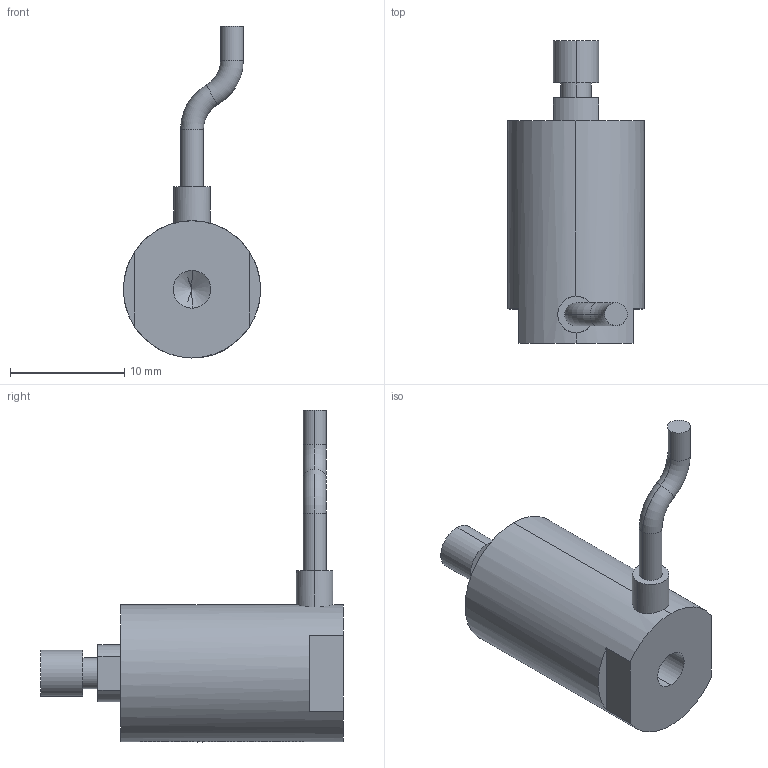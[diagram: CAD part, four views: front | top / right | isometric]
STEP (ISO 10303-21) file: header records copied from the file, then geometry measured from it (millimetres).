
FILE_DESCRIPTION (( 'STEP AP203' ), '1' );
FILE_NAME ('俋蹟恇宒7VS12.STEP', '2020-08-19T05:59:35', ( 'User' ), ( 'china' ), 'SwSTEP 2.0', 'SolidWorks 2016', '' );
FILE_SCHEMA (( 'CONFIG_CONTROL_DESIGN' ));
Length unit declared in the file: millimetre
Products named in the file (1): 俋蹟恇宒7VS12
Bounding box: 12 x 26.5 x 29.08 mm (x, y, z)
Volume: 2285.4 mm3; surface area: 1256.9 mm2
Topology: 1 solids, 1 shells, 911 faces, 2447 edges, 1627 vertices
Faces by surface type: bspline 493, plane 309, cylinder 103, torus 4, cone 2
Entity records: 41661 total; most frequent: CARTESIAN_POINT 23176, ORIENTED_EDGE 4890, EDGE_CURVE 2445, DIRECTION 1930, VERTEX_POINT 1627, B_SPLINE_CURVE_WITH_KNOTS 1623, EDGE_LOOP 1002, FACE_OUTER_BOUND 911
